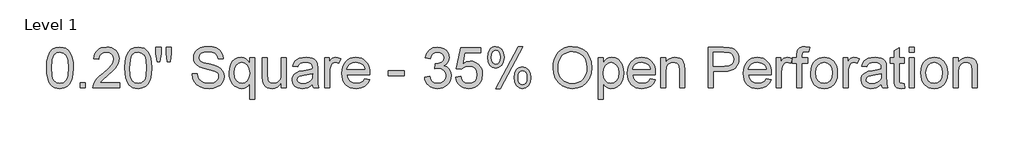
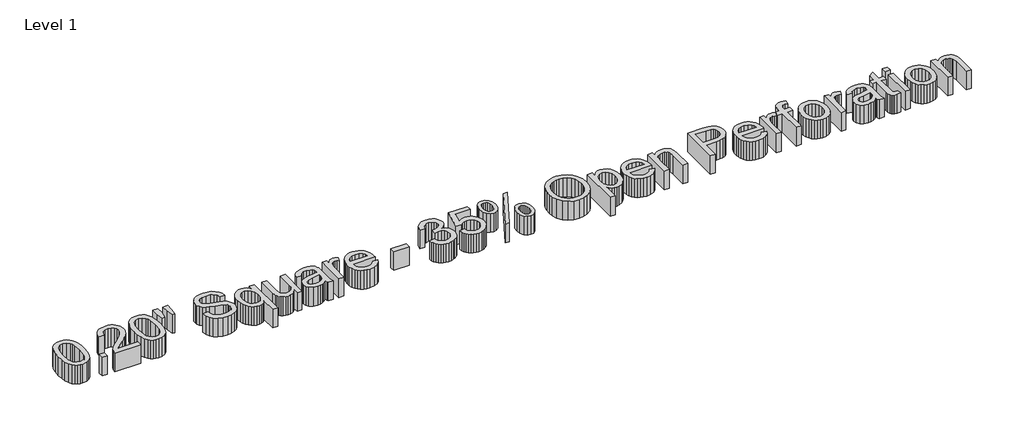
# One storey, part 2 of 3: 1 proxy.
"""IFC4 building model written with IfcOpenShell, lengths in millimetres."""

from ifc_helpers import new_model, si_unit, origin, origin_with_axes, place, context, project, spatial, polyline, outline, extrude, element, save

model = new_model("IFC4")

# Units and contexts
model_context = context("Model", 3, world=origin())
ifc_project = project(units=[si_unit("LENGTHUNIT", "METRE", prefix="MILLI")], contexts=[model_context])

# Site, building, storey
site = spatial("IfcSite", under=ifc_project)
building = spatial("IfcBuilding", under=site)
storey = spatial("IfcBuildingStorey", under=building, Name="Level 1", Elevation=0.0)

# Proxy
placement = place(None, origin())
element("IfcBuildingElementProxy", 1, Name="24\" Arial", ObjectType="24\" Arial", at=placement, inside=storey, context=model_context, shape_type="SweptSolid", body=[
    extrude(outline(polyline([(-12469.9924726, -26569.1832594), (-12467.1947829, -26520.4328197), (-12458.8017139, -26481.5532984), (-12444.8969173, -26451.9498379), (-12425.5640452, -26431.0275805), (-12400.6636776, -26418.5913387), (-12370.0563948, -26414.4459248), (-12346.596698, -26416.8997124), (-12325.5907888, -26424.2610753), (-12308.0239002, -26436.2418792), (-12294.8812649, -26452.5539901), (-12284.9545786, -26473.0579882), (-12277.0355368, -26497.6144537), (-12271.849122, -26528.7980048), (-12270.1203171, -26569.1832594), (-12272.8901228, -26617.6548596), (-12281.19954, -26656.4414344), (-12295.0206847, -26686.0727789), (-12314.3256729, -26707.0786881), (-12339.2818084, -26719.5985818), (-12370.0563948, -26723.7718797), (-12391.0251254, -26721.9594229), (-12409.6144256, -26716.5220526), (-12425.8242954, -26707.4597688), (-12439.6547347, -26694.7725714), (-12452.927495, -26671.8380223), (-12462.4080381, -26643.2616206), (-12468.096364, -26609.0433663), (-12469.9924726, -26569.1832594)]), holes=[polyline([(-12431.9215858, -26569.1089022), (-12427.4601538, -26628.9943327), (-12421.8833637, -26649.4774179), (-12414.0758576, -26663.6540829), (-12394.1481279, -26680.1892654), (-12370.0563948, -26685.7009929), (-12345.9646618, -26680.1706761), (-12326.036932, -26663.5797257), (-12318.2294259, -26649.379824), (-12312.6526359, -26628.9013862), (-12308.1912039, -26569.1089022), (-12312.5039215, -26510.571196), (-12317.8948185, -26490.1554971), (-12325.4420744, -26475.6419009), (-12345.3326256, -26458.2980839), (-12370.502538, -26452.5168115), (-12394.3340209, -26457.6102798), (-12413.481, -26472.8906845), (-12421.5487563, -26488.6915897), (-12427.3114394, -26509.9949277), (-12431.9215858, -26569.1089022)])]), origin_with_axes(), (0.0, 0.0, 1.0), 152.4),
    extrude(outline(polyline([(-12217.7728478, -26719.0130188), (-12217.7728478, -26680.9421321), (-12179.701961, -26680.9421321), (-12179.701961, -26719.0130188), (-12217.7728478, -26719.0130188)])), origin_with_axes(), (0.0, 0.0, 1.0), 152.4),
    extrude(outline(polyline([(-11922.7234754, -26680.9421321), (-11922.7234754, -26719.0130188), (-12122.5956309, -26719.0130188), (-12118.5059849, -26692.764927), (-12109.1183883, -26672.2516342), (-12095.3808954, -26652.3517884), (-12075.5089336, -26631.5224776), (-12047.7179298, -26608.2207898), (-12006.6355764, -26571.7299935), (-11981.9861644, -26544.7940976), (-11969.6614584, -26522.9330806), (-11965.553223, -26501.6669212), (-11969.4290921, -26482.6035939), (-11981.0566994, -26466.7562155), (-11998.9303115, -26456.0766625), (-12021.5441952, -26452.5168115), (-12045.2920261, -26455.9930107), (-12063.7419066, -26466.4216081), (-12075.6483533, -26482.9846745), (-12079.7658833, -26504.8642808), (-12117.8367701, -26500.10542), (-12114.5627296, -26480.4518824), (-12108.6071825, -26463.2800163), (-12099.9701289, -26448.5898219), (-12088.6515688, -26436.381299), (-12074.9117523, -26426.7845728), (-12059.0109297, -26419.9297683), (-12020.7262659, -26414.4459248), (-12000.3221853, -26415.9702474), (-11982.1627627, -26420.5432152), (-11966.2479981, -26428.1648283), (-11952.5778915, -26438.8350866), (-11941.5985861, -26451.7639449), (-11933.7562251, -26466.1613579), (-11929.0508085, -26482.0273256), (-11927.4823363, -26499.361848), (-11929.1739626, -26517.5700675), (-11934.2488415, -26535.4622689), (-11943.2553575, -26553.6611938), (-11956.7418947, -26572.7895837), (-11978.2404204, -26595.6265389), (-12011.2829015, -26624.9511599), (-12055.0792927, -26661.5720813), (-12072.255806, -26680.9421321), (-11922.7234754, -26680.9421321)])), origin_with_axes(), (0.0, 0.0, 1.0), 152.4),
    extrude(outline(polyline([(-11884.6525887, -26569.1832594), (-11881.854899, -26520.4328197), (-11873.46183, -26481.5532984), (-11859.5570334, -26451.9498379), (-11840.2241612, -26431.0275805), (-11815.3237937, -26418.5913387), (-11784.7165109, -26414.4459248), (-11761.2568141, -26416.8997124), (-11740.2509049, -26424.2610753), (-11722.6840162, -26436.2418792), (-11709.541381, -26452.5539901), (-11699.6146947, -26473.0579882), (-11691.6956528, -26497.6144537), (-11686.5092381, -26528.7980048), (-11684.7804332, -26569.1832594), (-11687.5502389, -26617.6548596), (-11695.8596561, -26656.4414344), (-11709.6808008, -26686.0727789), (-11728.985789, -26707.0786881), (-11753.9419245, -26719.5985818), (-11784.7165109, -26723.7718797), (-11805.6852415, -26721.9594229), (-11824.2745417, -26716.5220526), (-11840.4844114, -26707.4597688), (-11854.3148508, -26694.7725714), (-11867.5876111, -26671.8380223), (-11877.0681542, -26643.2616206), (-11882.75648, -26609.0433663), (-11884.6525887, -26569.1832594)]), holes=[polyline([(-11846.5817019, -26569.1089022), (-11842.1202699, -26628.9943327), (-11836.5434798, -26649.4774179), (-11828.7359737, -26663.6540829), (-11808.8082439, -26680.1892654), (-11784.7165109, -26685.7009929), (-11760.6247779, -26680.1706761), (-11740.6970481, -26663.5797257), (-11732.889542, -26649.379824), (-11727.312752, -26628.9013862), (-11722.8513199, -26569.1089022), (-11727.1640376, -26510.571196), (-11732.5549346, -26490.1554971), (-11740.1021905, -26475.6419009), (-11759.9927417, -26458.2980839), (-11785.1626541, -26452.5168115), (-11808.994137, -26457.6102798), (-11828.1411161, -26472.8906845), (-11836.2088724, -26488.6915897), (-11841.9715555, -26509.9949277), (-11846.5817019, -26569.1089022)])]), origin_with_axes(), (0.0, 0.0, 1.0), 152.4),
    extrude(outline(polyline([(-11642.1737572, -26523.8997242), (-11651.4684073, -26465.0831784), (-11651.4684073, -26414.4459248), (-11613.3975205, -26414.4459248), (-11613.3975205, -26465.0831784), (-11621.725527, -26523.8997242), (-11642.1737572, -26523.8997242)])), origin_with_axes(), (0.0, 0.0, 1.0), 152.4),
    extrude(outline(polyline([(-11566.2550553, -26523.8997242), (-11575.3266338, -26465.0831784), (-11575.3266338, -26414.4459248), (-11537.255747, -26414.4459248), (-11537.255747, -26465.0831784), (-11546.1786111, -26523.8997242), (-11566.2550553, -26523.8997242)])), origin_with_axes(), (0.0, 0.0, 1.0), 152.4),
    extrude(outline(polyline([(-11380.2133391, -26614.3180802), (-11342.1424524, -26614.3180802), (-11337.7739668, -26635.4448199), (-11329.8735142, -26652.4261456), (-11317.5488082, -26665.9033882), (-11299.9075624, -26676.5178786), (-11278.3439742, -26683.4052143), (-11254.2522411, -26685.7009929), (-11233.0418496, -26683.9628934), (-11214.4711388, -26678.7485947), (-11199.4231003, -26670.4949454), (-11188.7807259, -26659.6387941), (-11182.4510692, -26647.1746683), (-11180.3411836, -26634.0970956), (-11181.9212741, -26621.3541304), (-11186.6615457, -26610.33997), (-11196.2908032, -26600.9430788), (-11212.5378515, -26593.0519208), (-11267.9711447, -26578.5150881), (-11304.3596997, -26568.8951253), (-11327.6427982, -26559.7398949), (-11346.5945897, -26546.9318671), (-11360.0253591, -26531.4098015), (-11368.0280528, -26513.5083054), (-11370.6956174, -26493.5619863), (-11367.3960166, -26471.2641208), (-11357.4972143, -26450.4719885), (-11341.2594606, -26432.8493319), (-11318.9430057, -26420.0598934), (-11292.1558242, -26412.2802713), (-11262.5058904, -26409.6870639), (-11230.3835797, -26412.4011017), (-11202.2765578, -26420.5432152), (-11179.188647, -26433.9461006), (-11162.1236695, -26452.4424543), (-11151.3232861, -26474.8797396), (-11147.0291577, -26500.10542), (-11185.1000445, -26500.10542), (-11192.0896213, -26477.3892952), (-11206.6636327, -26460.9935324), (-11229.4355254, -26451.0668461), (-11261.0187464, -26447.7579507), (-11293.3455394, -26451.0296675), (-11315.5225745, -26460.844818), (-11328.3491916, -26475.2887042), (-11332.6247307, -26492.4466283), (-11329.5946747, -26507.0764075), (-11320.504507, -26518.8434345), (-11299.0152759, -26529.3649784), (-11258.3418872, -26540.1095939), (-11216.3672474, -26550.3151197), (-11190.9742633, -26559.2193945), (-11169.2712554, -26573.0312446), (-11154.1302704, -26590.0776328), (-11145.2352902, -26610.1726663), (-11142.2702969, -26633.130452), (-11145.6814335, -26656.5994435), (-11155.9148432, -26678.6742375), (-11172.5522669, -26697.6725022), (-11195.1754452, -26711.9119062), (-11222.380886, -26720.8068863), (-11252.7650971, -26723.7718797), (-11290.0645279, -26720.57452), (-11320.7647572, -26710.9824412), (-11345.2189815, -26694.9584644), (-11363.7803978, -26672.4654112), (-11375.6961392, -26645.0647827), (-11380.2133391, -26614.3180802)])), origin_with_axes(), (0.0, 0.0, 1.0), 152.4),
    extrude(outline(polyline([(-10951.9158631, -26804.672514), (-10951.9158631, -26688.5265665), (-10962.2701033, -26702.4127738), (-10976.0819533, -26713.7336576), (-10992.1059301, -26721.2623242), (-11009.0965504, -26723.7718797), (-11027.8670963, -26721.7897955), (-11045.2899179, -26715.8435432), (-11061.3650152, -26705.9331225), (-11076.0923882, -26692.0585336), (-11088.3892103, -26674.7309822), (-11097.1726546, -26654.461674), (-11102.4427212, -26631.250609), (-11104.1994101, -26605.0977874), (-11101.4110151, -26573.2171376), (-11093.04583, -26544.7940976), (-11079.3826944, -26521.3344008), (-11060.7004477, -26504.3437804), (-11038.486234, -26494.0267188), (-11014.2271973, -26490.5876983), (-10995.4705934, -26493.2552629), (-10978.8331697, -26501.2579566), (-10964.3149263, -26514.5957795), (-10951.9158631, -26533.2687315), (-10951.9158631, -26495.3465591), (-10913.8449763, -26495.3465591), (-10913.8449763, -26804.672514), (-10951.9158631, -26804.672514)]), holes=[polyline([(-11066.1285234, -26607.179789), (-11061.8436897, -26641.5328157), (-11048.9891886, -26666.0706919), (-11030.1489329, -26680.7934177), (-11007.9068352, -26685.7009929), (-10986.5942026, -26681.0350786), (-10968.4603402, -26667.0373355), (-10956.0519824, -26643.5032815), (-10951.9158631, -26610.2284342), (-10956.275054, -26574.6578083), (-10969.3526266, -26549.1439938), (-10988.3044182, -26533.7799372), (-11010.2862656, -26528.658585), (-11031.8591485, -26533.4267405), (-11049.881475, -26547.731207), (-11062.0667613, -26572.1296635), (-11066.1285234, -26607.179789)])]), origin_with_axes(), (0.0, 0.0, 1.0), 152.4),
    extrude(outline(polyline([(-10713.9728208, -26719.0130188), (-10713.9728208, -26680.5703461), (-10727.7474923, -26699.471017), (-10743.7900583, -26712.9714963), (-10762.100519, -26721.0717838), (-10782.6788743, -26723.7718797), (-10801.2217012, -26721.8757711), (-10818.4818664, -26716.1874452), (-10832.9629313, -26707.6363671), (-10843.1684571, -26697.1520018), (-10850.0372035, -26684.4183312), (-10854.5079302, -26669.1193372), (-10856.7386462, -26633.7253096), (-10856.7386462, -26495.3465591), (-10818.6677594, -26495.3465591), (-10818.6677594, -26615.8052243), (-10816.3626862, -26654.619683), (-10810.8137801, -26667.5671306), (-10801.3053531, -26677.410165), (-10788.4694413, -26683.628286), (-10772.938081, -26685.7009929), (-10756.5144343, -26683.5818127), (-10741.1503777, -26677.224272), (-10728.4817696, -26667.2139339), (-10720.1444685, -26654.1363612), (-10715.5157328, -26636.2255705), (-10713.9728208, -26611.7155782), (-10713.9728208, -26495.3465591), (-10675.9019341, -26495.3465591), (-10675.9019341, -26719.0130188), (-10713.9728208, -26719.0130188)])), origin_with_axes(), (0.0, 0.0, 1.0), 152.4),
    extrude(outline(polyline([(-10480.7886394, -26690.4598538), (-10498.9782697, -26706.0562766), (-10517.7069896, -26716.2618024), (-10537.4023531, -26721.8943604), (-10558.4919142, -26723.7718797), (-10590.3075014, -26719.2546797), (-10613.7764929, -26705.7030799), (-10628.2482631, -26685.1247246), (-10633.0721865, -26659.5272583), (-10631.2504351, -26643.7449424), (-10625.7851808, -26629.412592), (-10617.3549332, -26617.1436539), (-10606.6382016, -26607.551575), (-10579.9811452, -26595.0595653), (-10547.0409053, -26589.3340608), (-10508.1149107, -26583.3111276), (-10481.011711, -26576.2471935), (-10480.7886394, -26567.7704726), (-10483.4097308, -26550.7798522), (-10491.2730047, -26539.6634507), (-10508.8584827, -26531.4098015), (-10533.3591803, -26528.658585), (-10556.0381266, -26530.4896311), (-10571.8762103, -26535.9827693), (-10582.6765937, -26546.1418219), (-10590.2424389, -26561.970611), (-10628.3133256, -26557.2117501), (-10621.7048294, -26536.3917339), (-10611.8432057, -26520.0331498), (-10597.808284, -26507.5225507), (-10578.6798942, -26498.24649), (-10555.2852599, -26492.5023962), (-10528.4516051, -26490.5876983), (-10502.714719, -26492.2793246), (-10482.3129621, -26497.3542035), (-10466.9303162, -26504.9851113), (-10456.2507632, -26514.3448239), (-10449.1682398, -26525.9166633), (-10444.5766827, -26540.1839511), (-10442.7177527, -26573.4959771), (-10442.7177527, -26620.8615139), (-10440.7844655, -26687.0022439), (-10433.200031, -26719.0130188), (-10471.2709178, -26719.0130188), (-10477.3682082, -26705.7774371), (-10480.7886394, -26690.4598538)]), holes=[polyline([(-10480.7886394, -26614.3180802), (-10542.2076872, -26625.9921608), (-10574.9620341, -26632.1638084), (-10589.7962957, -26642.2020305), (-10595.0012997, -26656.850399), (-10592.1664314, -26668.1712829), (-10583.6618266, -26677.4473436), (-10569.6733782, -26683.6375806), (-10550.3869793, -26685.7009929), (-10529.9387491, -26683.4238036), (-10511.8699493, -26676.5922358), (-10497.2215808, -26666.5261298), (-10487.0346443, -26654.5453258), (-10482.5174444, -26642.2020305), (-10481.011711, -26625.0998743), (-10480.7886394, -26614.3180802)])]), origin_with_axes(), (0.0, 0.0, 1.0), 152.4),
    extrude(outline(polyline([(-10390.3702834, -26719.0130188), (-10390.3702834, -26495.3465591), (-10357.0582575, -26495.3465591), (-10357.0582575, -26528.4355134), (-10344.7521408, -26509.2513557), (-10333.4126677, -26497.9490612), (-10322.0360159, -26492.428039), (-10309.6183634, -26490.5876983), (-10290.6572773, -26493.5248077), (-10271.3987623, -26502.336136), (-10284.1138436, -26536.4660911), (-10297.4981397, -26530.6104616), (-10310.8824358, -26528.658585), (-10322.2497929, -26530.5361044), (-10332.4088454, -26536.1686623), (-10340.6160215, -26545.128705), (-10346.127749, -26556.9886785), (-10350.7564847, -26578.2548379), (-10352.2993966, -26601.4542845), (-10352.2993966, -26719.0130188), (-10390.3702834, -26719.0130188)])), origin_with_axes(), (0.0, 0.0, 1.0), 152.4),
    extrude(outline(polyline([(-10091.0081934, -26652.388967), (-10053.6808786, -26657.1478279), (-10067.1302373, -26685.273439), (-10088.5915843, -26706.2979375), (-10117.581598, -26719.4033941), (-10153.6169564, -26723.7718797), (-10177.2393096, -26721.8873894), (-10198.2870447, -26716.2339185), (-10216.7601617, -26706.8114669), (-10232.6586607, -26693.6200348), (-10245.4434519, -26677.0267607), (-10254.5754456, -26657.3987834), (-10260.0546418, -26634.7361028), (-10261.8810406, -26609.038719), (-10260.0360525, -26582.4699617), (-10254.5010884, -26559.0520908), (-10245.2761482, -26538.7851063), (-10232.3612319, -26521.6690082), (-10216.5045589, -26508.0709351), (-10198.4543484, -26498.3580258), (-10178.2106005, -26492.5302802), (-10155.7733152, -26490.5876983), (-10134.0586889, -26492.5256328), (-10114.4214169, -26498.3394365), (-10096.8614993, -26508.0291092), (-10081.3789359, -26521.594651), (-10068.7405354, -26538.6735705), (-10059.7131065, -26558.9033764), (-10054.2966492, -26582.2840687), (-10052.4911634, -26608.8156474), (-10052.714235, -26619.0769411), (-10223.8101538, -26619.0769411), (-10217.2202469, -26647.5743383), (-10201.9119582, -26668.5244796), (-10179.818575, -26681.4068646), (-10152.8733844, -26685.7009929), (-10132.6110472, -26683.7119378), (-10115.5460696, -26677.7447724), (-10101.6784517, -26667.4277108), (-10091.0081934, -26652.388967)]), holes=[polyline([(-10223.8101538, -26581.0060543), (-10090.5620502, -26581.0060543), (-10095.7112863, -26560.8924315), (-10105.8052763, -26546.5043132), (-10128.0009007, -26533.1200171), (-10155.9220296, -26528.658585), (-10181.5845585, -26532.218436), (-10202.8042446, -26542.897989), (-10217.5548543, -26559.5447073), (-10223.8101538, -26581.0060543)])]), origin_with_axes(), (0.0, 0.0, 1.0), 152.4),
    extrude(outline(polyline([(-9914.4841989, -26628.5946628), (-9914.4841989, -26590.523776), (-9795.5126778, -26590.523776), (-9795.5126778, -26628.5946628), (-9914.4841989, -26628.5946628)])), origin_with_axes(), (0.0, 0.0, 1.0), 152.4),
    extrude(outline(polyline([(-9643.2291308, -26638.1123845), (-9605.158244, -26633.3535236), (-9596.6350499, -26657.277953), (-9584.1523348, -26673.4320548), (-9567.0966519, -26682.6337584), (-9544.8545542, -26685.7009929), (-9518.7551768, -26681.4812218), (-9498.6043754, -26668.8219084), (-9485.7219904, -26649.9351794), (-9481.427862, -26627.0331616), (-9485.6848118, -26605.292975), (-9498.455661, -26587.6610238), (-9517.7885332, -26575.9776486), (-9541.7315518, -26572.0831903), (-9568.4257869, -26576.2471935), (-9564.1874264, -26538.1763067), (-9558.090136, -26538.6224499), (-9535.2810646, -26535.8898228), (-9514.8886023, -26527.6919414), (-9500.500484, -26513.8243235), (-9495.7044446, -26494.0824867), (-9499.1806437, -26477.6402507), (-9509.6092411, -26464.3024278), (-9525.521682, -26455.4632156), (-9545.4494118, -26452.5168115), (-9565.4143202, -26455.4910996), (-9581.7357258, -26464.4139636), (-9593.6514672, -26479.2854038), (-9600.3993832, -26500.10542), (-9638.4702699, -26495.3465591), (-9627.2609219, -26461.1608361), (-9607.3146028, -26435.637727), (-9580.0255102, -26419.7438753), (-9546.7878414, -26414.4459248), (-9522.8541175, -26417.0577214), (-9500.87227, -26424.8931115), (-9482.3387377, -26437.2549961), (-9468.7499593, -26453.4462765), (-9460.4126582, -26472.1006393), (-9457.6335578, -26491.8517707), (-9460.2732384, -26510.2551779), (-9468.1922803, -26526.9483694), (-9481.2791476, -26541.1691841), (-9499.4223046, -26552.1554605), (-9475.5908218, -26561.784718), (-9457.9309866, -26578.1804807), (-9447.0004781, -26600.4504623), (-9443.3569753, -26627.7023764), (-9445.1787267, -26647.0166593), (-9450.6439809, -26664.8066195), (-9459.752738, -26681.0722572), (-9472.5049979, -26695.8135722), (-9488.0410056, -26708.0453317), (-9505.5010058, -26716.7823028), (-9524.8849985, -26722.0244855), (-9546.1929838, -26723.7718797), (-9565.4514988, -26722.2800883), (-9582.9997982, -26717.8047143), (-9598.8378819, -26710.3457576), (-9612.9657501, -26699.9032183), (-9624.8117816, -26687.0905431), (-9633.8043556, -26672.5211791), (-9639.9434719, -26656.1951262), (-9643.2291308, -26638.1123845)])), origin_with_axes(), (0.0, 0.0, 1.0), 152.4),
    extrude(outline(polyline([(-9410.0449494, -26638.1123845), (-9371.9740626, -26633.3535236), (-9364.9844857, -26656.2090682), (-9352.7899048, -26672.576947), (-9335.4460878, -26682.4199814), (-9313.0088024, -26685.7009929), (-9285.7197098, -26681.1373197), (-9265.2714796, -26667.4463001), (-9252.5006304, -26646.2080247), (-9248.2436806, -26619.0025839), (-9252.2310855, -26593.3865283), (-9264.1933002, -26573.7934059), (-9284.2232711, -26561.357164), (-9312.4139448, -26557.2117501), (-9330.8824146, -26558.8661978), (-9345.8375066, -26563.829541), (-9367.2152018, -26581.0060543), (-9405.2860885, -26576.2471935), (-9371.9740626, -26419.2047856), (-9224.4493764, -26419.2047856), (-9224.4493764, -26457.2756724), (-9341.1901815, -26457.2756724), (-9357.4744085, -26541.1505948), (-9330.2782623, -26524.6432962), (-9301.7808651, -26519.1408634), (-9283.2403619, -26520.8464316), (-9266.2102393, -26525.9631365), (-9250.6904973, -26534.490978), (-9236.6811359, -26546.429956), (-9225.0837363, -26561.0504406), (-9216.7998794, -26577.6228017), (-9211.8295653, -26596.1470393), (-9210.1727939, -26616.6231535), (-9216.1399592, -26654.6940402), (-9223.5989159, -26671.6660713), (-9234.0414553, -26687.2624941), (-9249.8609497, -26703.2353503), (-9268.3201248, -26714.6445333), (-9289.4189805, -26721.4900431), (-9313.1575168, -26723.7718797), (-9332.8040835, -26722.3056486), (-9350.5498941, -26717.9069555), (-9366.3949489, -26710.5758002), (-9380.3392477, -26700.3121829), (-9391.9412947, -26687.6273092), (-9400.7595939, -26673.0323849), (-9406.7941455, -26656.52741), (-9410.0449494, -26638.1123845)])), origin_with_axes(), (0.0, 0.0, 1.0), 152.4),
    extrude(outline(polyline([(-8972.2297516, -26640.7148865), (-8968.3352932, -26610.2377289), (-8956.6519181, -26584.8354502), (-8947.9776859, -26574.832083), (-8937.5328229, -26567.6868208), (-8911.3312043, -26561.970611), (-8886.5144885, -26567.1105525), (-8866.3450978, -26582.5303769), (-8852.9608017, -26607.9140663), (-8848.4993697, -26642.9456025), (-8853.007275, -26677.3543971), (-8866.5309908, -26702.8031491), (-8886.7096762, -26718.529697), (-8911.1824899, -26723.7718797), (-8935.1719817, -26718.5761703), (-8954.7929881, -26702.9890421), (-8967.8705607, -26677.0290844), (-8972.2297516, -26640.7148865)]), holes=[polyline([(-8910.3645607, -26590.523776), (-8923.5443745, -26593.4051176), (-8934.2332221, -26602.0491421), (-8941.3157454, -26618.389137), (-8943.6765866, -26644.3583893), (-8941.2878615, -26668.0969257), (-8934.1216863, -26683.6933485), (-8923.4607226, -26692.3373731), (-8910.5876323, -26695.2187146), (-8897.2405147, -26692.3373731), (-8886.4958992, -26683.6933485), (-8879.4133759, -26667.4091215), (-8877.0525347, -26641.6071729), (-8879.4412598, -26617.5619131), (-8886.607435, -26601.9376063), (-8897.3241666, -26593.3772336), (-8910.3645607, -26590.523776)])]), origin_with_axes(), (0.0, 0.0, 1.0), 152.4),
    extrude(outline(polyline([(-9172.1019071, -26488.4313395), (-9168.2074487, -26458.0936016), (-9156.5240736, -26432.6634389), (-9147.859136, -26422.6112749), (-9137.4421569, -26415.4311577), (-9125.2731363, -26411.1230874), (-9111.3520741, -26409.6870639), (-9086.4238226, -26414.8270054), (-9066.2172533, -26430.2468299), (-9052.8329572, -26455.6305193), (-9048.3715252, -26490.6620555), (-9052.8887251, -26525.0708501), (-9066.4403249, -26550.519602), (-9086.5911263, -26566.24615), (-9110.9059309, -26571.4883326), (-9134.9604854, -26566.3205072), (-9154.627965, -26550.8170309), (-9167.7334216, -26524.8849571), (-9172.1019071, -26488.4313395)]), holes=[polyline([(-9110.3110733, -26438.240229), (-9123.388646, -26441.1215705), (-9134.068199, -26449.7655951), (-9141.1786063, -26466.10559), (-9143.548742, -26492.0748423), (-9141.1507223, -26515.9527984), (-9133.9566632, -26531.5213373), (-9123.2492263, -26540.08171), (-9110.3110733, -26542.9351676), (-9097.1219649, -26540.053826), (-9086.4052333, -26531.4098015), (-9079.294826, -26515.1255745), (-9076.9246902, -26489.3236259), (-9079.3227099, -26465.2783661), (-9086.5167691, -26449.6540593), (-9097.2613846, -26441.0936866), (-9110.3110733, -26438.240229)])]), origin_with_axes(), (0.0, 0.0, 1.0), 152.4),
    extrude(outline(polyline([(-9110.1623589, -26723.7718797), (-8941.3715133, -26409.6870639), (-8909.6209886, -26409.6870639), (-9078.4118342, -26723.7718797), (-9110.1623589, -26723.7718797)])), origin_with_axes(), (0.0, 0.0, 1.0), 152.4),
    extrude(outline(polyline([(-8681.9392401, -26570.7447606), (-8679.4018006, -26535.020773), (-8671.7894822, -26503.3957261), (-8659.1022848, -26475.8696199), (-8641.3402085, -26452.4424543), (-8619.5674907, -26433.736971), (-8594.8483688, -26420.3759115), (-8567.1828428, -26412.3592758), (-8536.5709127, -26409.6870639), (-8496.6225067, -26414.706175), (-8460.8009252, -26429.7635081), (-8431.0580449, -26453.7994732), (-8409.3457423, -26485.7544802), (-8396.072982, -26524.0856172), (-8391.6487286, -26567.2499722), (-8396.3053483, -26610.9905955), (-8410.2752073, -26649.8608222), (-8432.7868499, -26681.8715971), (-8463.0688198, -26705.0338651), (-8498.5836778, -26719.087376), (-8536.7939843, -26723.7718797), (-8577.3558373, -26718.5947596), (-8613.3819011, -26703.0633993), (-8643.0504241, -26678.581291), (-8664.5396551, -26646.5519268), (-8677.5893439, -26609.6986392), (-8681.9392401, -26570.7447606)]), holes=[polyline([(-8643.8683533, -26571.1165466), (-8641.9652737, -26596.356169), (-8636.2560349, -26618.760923), (-8626.7406369, -26638.3308087), (-8613.4190797, -26655.0658262), (-8597.2254755, -26668.4687117), (-8579.0939369, -26678.0422012), (-8559.0244637, -26683.786295), (-8537.0170559, -26685.7009929), (-8514.6332149, -26683.7677057), (-8494.3267281, -26677.967844), (-8476.0975956, -26668.301408), (-8459.9458174, -26654.7683974), (-8446.721854, -26637.6801832), (-8437.2761658, -26617.3481362), (-8431.608753, -26593.7722562), (-8429.7196153, -26566.9525434), (-8432.9541536, -26533.2501422), (-8442.6577682, -26504.1207088), (-8458.5795038, -26480.2985206), (-8480.4684048, -26462.517855), (-8506.8745057, -26451.4479268), (-8536.3478411, -26447.7579507), (-8557.5907639, -26449.5355525), (-8577.3000694, -26454.868358), (-8595.4757577, -26463.7563671), (-8612.1178286, -26476.1995799), (-8626.0086832, -26492.7975013), (-8635.9307222, -26514.1496363), (-8641.8839455, -26540.2559847), (-8643.8683533, -26571.1165466)])]), origin_with_axes(), (0.0, 0.0, 1.0), 152.4),
    extrude(outline(polyline([(-8344.0601201, -26804.672514), (-8344.0601201, -26495.3465591), (-8305.9892334, -26495.3465591), (-8305.9892334, -26532.6738739), (-8293.5715808, -26514.2611721), (-8279.6667843, -26501.1092422), (-8263.4569146, -26493.2180843), (-8244.1240424, -26490.5876983), (-8218.3778616, -26494.2683797), (-8195.8662191, -26505.310424), (-8177.5371692, -26523.0446164), (-8164.338766, -26546.801742), (-8156.3639563, -26574.852996), (-8153.7056863, -26605.4695734), (-8156.7078583, -26638.0287326), (-8165.7143742, -26667.1488713), (-8180.4371, -26691.3521402), (-8200.5879014, -26709.1606897), (-8224.0568928, -26720.1190822), (-8248.7341888, -26723.7718797), (-8266.2360149, -26721.3273867), (-8281.8603217, -26713.9939078), (-8295.2353232, -26702.9239795), (-8305.9892334, -26689.2701386), (-8305.9892334, -26804.672514), (-8344.0601201, -26804.672514)]), holes=[polyline([(-8305.9892334, -26608.9643618), (-8301.8717034, -26643.0943169), (-8289.5191134, -26666.9629783), (-8271.2923046, -26681.0164893), (-8249.552118, -26685.7009929), (-8227.4587348, -26680.8491856), (-8208.7671934, -26666.2937635), (-8196.0242282, -26641.551405), (-8191.7765731, -26606.1387882), (-8195.921987, -26572.1947261), (-8208.3582288, -26547.9914572), (-8226.5571537, -26533.4918031), (-8247.9906168, -26528.658585), (-8269.5077318, -26533.7985265), (-8288.4037554, -26549.218351), (-8301.5928639, -26574.4347367), (-8305.9892334, -26608.9643618)])]), origin_with_axes(), (0.0, 0.0, 1.0), 152.4),
    extrude(outline(polyline([(-7954.279674, -26652.388967), (-7916.9523593, -26657.1478279), (-7930.401718, -26685.273439), (-7951.863065, -26706.2979375), (-7980.8530786, -26719.4033941), (-8016.888437, -26723.7718797), (-8040.5107902, -26721.8873894), (-8061.5585254, -26716.2339185), (-8080.0316424, -26706.8114669), (-8095.9301414, -26693.6200348), (-8108.7149326, -26677.0267607), (-8117.8469263, -26657.3987834), (-8123.3261225, -26634.7361028), (-8125.1525213, -26609.038719), (-8123.3075332, -26582.4699617), (-8117.7725691, -26559.0520908), (-8108.5476289, -26538.7851063), (-8095.6327126, -26521.6690082), (-8079.7760395, -26508.0709351), (-8061.7258291, -26498.3580258), (-8041.4820812, -26492.5302802), (-8019.0447959, -26490.5876983), (-7997.3301696, -26492.5256328), (-7977.6928976, -26498.3394365), (-7960.1329799, -26508.0291092), (-7944.6504166, -26521.594651), (-7932.0120161, -26538.6735705), (-7922.9845872, -26558.9033764), (-7917.5681299, -26582.2840687), (-7915.7626441, -26608.8156474), (-7915.9857157, -26619.0769411), (-8087.0816345, -26619.0769411), (-8080.4917276, -26647.5743383), (-8065.1834389, -26668.5244796), (-8043.0900556, -26681.4068646), (-8016.144865, -26685.7009929), (-7995.8825278, -26683.7119378), (-7978.8175503, -26677.7447724), (-7964.9499323, -26667.4277108), (-7954.279674, -26652.388967)]), holes=[polyline([(-8087.0816345, -26581.0060543), (-7953.8335308, -26581.0060543), (-7958.982767, -26560.8924315), (-7969.076757, -26546.5043132), (-7991.2723814, -26533.1200171), (-8019.1935103, -26528.658585), (-8044.8560392, -26532.218436), (-8066.0757253, -26542.897989), (-8080.826335, -26559.5447073), (-8087.0816345, -26581.0060543)])]), origin_with_axes(), (0.0, 0.0, 1.0), 152.4),
    extrude(outline(polyline([(-7877.6917573, -26719.0130188), (-7877.6917573, -26495.3465591), (-7839.6208706, -26495.3465591), (-7839.6208706, -26526.5765834), (-7826.3945835, -26510.8314462), (-7810.5100265, -26499.5849196), (-7791.9671996, -26492.8370036), (-7770.7661027, -26490.5876983), (-7752.0002042, -26492.400155), (-7734.8143962, -26497.8375254), (-7720.4820457, -26506.2212997), (-7710.27652, -26516.8729687), (-7698.8626896, -26544.8684548), (-7696.8550452, -26581.6752691), (-7696.8550452, -26719.0130188), (-7734.925932, -26719.0130188), (-7734.925932, -26586.805916), (-7739.3130068, -26553.1221041), (-7745.3824133, -26543.0931766), (-7754.8164832, -26535.3135545), (-7766.9088229, -26530.3223274), (-7780.9530392, -26528.658585), (-7803.2509048, -26532.3950344), (-7822.2584642, -26543.6043824), (-7829.854517, -26552.7549654), (-7835.280269, -26565.2609171), (-7839.6208706, -26600.3389265), (-7839.6208706, -26719.0130188), (-7877.6917573, -26719.0130188)])), origin_with_axes(), (0.0, 0.0, 1.0), 152.4),
    extrude(outline(polyline([(-7520.777194, -26719.0130188), (-7520.777194, -26414.4459248), (-7407.9029633, -26414.4459248), (-7362.3963565, -26417.3458556), (-7342.1061353, -26422.7646366), (-7325.4036491, -26431.5852595), (-7311.9542904, -26444.2073943), (-7301.4234519, -26461.030711), (-7294.619768, -26480.8747889), (-7292.3518734, -26502.5592076), (-7293.883167, -26521.2553962), (-7298.4770478, -26538.4551462), (-7306.1335158, -26554.1584576), (-7316.852571, -26568.3653302), (-7331.5683258, -26580.1416519), (-7351.2148924, -26588.5533102), (-7375.7922709, -26593.6003052), (-7405.3004613, -26595.2826369), (-7482.7063072, -26595.2826369), (-7482.7063072, -26719.0130188), (-7520.777194, -26719.0130188)]), holes=[polyline([(-7482.7063072, -26557.2117501), (-7403.0697453, -26557.2117501), (-7369.3115761, -26553.7169617), (-7347.0044159, -26543.2325964), (-7334.5681741, -26526.4092797), (-7330.4227602, -26503.8976372), (-7332.8672531, -26486.795481), (-7340.2007321, -26472.3701841), (-7351.5123212, -26461.5140328), (-7365.8911449, -26455.1193135), (-7403.9620317, -26452.5168115), (-7482.7063072, -26452.5168115), (-7482.7063072, -26557.2117501)])]), origin_with_axes(), (0.0, 0.0, 1.0), 152.4),
    extrude(outline(polyline([(-7088.1670003, -26652.388967), (-7050.8396855, -26657.1478279), (-7064.2890442, -26685.273439), (-7085.7503913, -26706.2979375), (-7114.7404049, -26719.4033941), (-7150.7757633, -26723.7718797), (-7174.3981165, -26721.8873894), (-7195.4458516, -26716.2339185), (-7213.9189687, -26706.8114669), (-7229.8174676, -26693.6200348), (-7242.6022588, -26677.0267607), (-7251.7342525, -26657.3987834), (-7257.2134488, -26634.7361028), (-7259.0398475, -26609.038719), (-7257.1948595, -26582.4699617), (-7251.6598953, -26559.0520908), (-7242.4349551, -26538.7851063), (-7229.5200388, -26521.6690082), (-7213.6633658, -26508.0709351), (-7195.6131553, -26498.3580258), (-7175.3694074, -26492.5302802), (-7152.9321221, -26490.5876983), (-7131.2174958, -26492.5256328), (-7111.5802239, -26498.3394365), (-7094.0203062, -26508.0291092), (-7078.5377428, -26521.594651), (-7065.8993423, -26538.6735705), (-7056.8719134, -26558.9033764), (-7051.4554561, -26582.2840687), (-7049.6499703, -26608.8156474), (-7049.8730419, -26619.0769411), (-7220.9689607, -26619.0769411), (-7214.3790538, -26647.5743383), (-7199.0707651, -26668.5244796), (-7176.9773819, -26681.4068646), (-7150.0321913, -26685.7009929), (-7129.7698541, -26683.7119378), (-7112.7048765, -26677.7447724), (-7098.8372586, -26667.4277108), (-7088.1670003, -26652.388967)]), holes=[polyline([(-7220.9689607, -26581.0060543), (-7087.7208571, -26581.0060543), (-7092.8700932, -26560.8924315), (-7102.9640832, -26546.5043132), (-7125.1597076, -26533.1200171), (-7153.0808365, -26528.658585), (-7178.7433654, -26532.218436), (-7199.9630515, -26542.897989), (-7214.7136612, -26559.5447073), (-7220.9689607, -26581.0060543)])]), origin_with_axes(), (0.0, 0.0, 1.0), 152.4),
    extrude(outline(polyline([(-7011.5790836, -26719.0130188), (-7011.5790836, -26495.3465591), (-6978.2670577, -26495.3465591), (-6978.2670577, -26528.4355134), (-6965.9609409, -26509.2513557), (-6954.6214678, -26497.9490612), (-6943.2448161, -26492.428039), (-6930.8271636, -26490.5876983), (-6911.8660774, -26493.5248077), (-6892.6075624, -26502.336136), (-6905.3226438, -26536.4660911), (-6918.7069399, -26530.6104616), (-6932.091236, -26528.658585), (-6943.4585931, -26530.5361044), (-6953.6176456, -26536.1686623), (-6961.8248217, -26545.128705), (-6967.3365492, -26556.9886785), (-6971.9652849, -26578.2548379), (-6973.5081968, -26601.4542845), (-6973.5081968, -26719.0130188), (-7011.5790836, -26719.0130188)])), origin_with_axes(), (0.0, 0.0, 1.0), 152.4),
    extrude(outline(polyline([(-6859.2955365, -26719.0130188), (-6859.2955365, -26533.4174459), (-6892.6075624, -26533.4174459), (-6892.6075624, -26495.3465591), (-6859.2955365, -26495.3465591), (-6859.2955365, -26472.8163273), (-6855.2802477, -26441.0658026), (-6847.621456, -26428.4064892), (-6835.7986611, -26418.3868564), (-6819.254184, -26411.862012), (-6797.4303456, -26409.6870639), (-6762.7055328, -26413.8510672), (-6768.2823229, -26449.5425235), (-6790.2176971, -26447.7579507), (-6804.6894673, -26449.3380412), (-6814.1978943, -26454.0783127), (-6819.4679609, -26463.1313019), (-6821.2246498, -26477.6495454), (-6821.2246498, -26495.3465591), (-6778.3949022, -26495.3465591), (-6778.3949022, -26533.4174459), (-6821.2246498, -26533.4174459), (-6821.2246498, -26719.0130188), (-6859.2955365, -26719.0130188)])), origin_with_axes(), (0.0, 0.0, 1.0), 152.4),
    extrude(outline(polyline([(-6754.600598, -26607.179789), (-6752.541833, -26578.213012), (-6746.365538, -26553.2522292), (-6736.071713, -26532.2974406), (-6721.660358, -26515.3486461), (-6707.1514093, -26504.5157314), (-6691.1367272, -26496.7779352), (-6673.6163117, -26492.1352575), (-6654.590163, -26490.5876983), (-6633.5865775, -26492.4721886), (-6614.5952837, -26498.1256595), (-6597.6162816, -26507.548111), (-6582.6495713, -26520.7395432), (-6570.4340775, -26537.2538127), (-6561.7087247, -26556.6447765), (-6556.473513, -26578.9124344), (-6554.7284425, -26604.0567866), (-6557.8142663, -26642.5180486), (-6567.0717378, -26671.7961964), (-6582.2313121, -26693.7222759), (-6603.0234443, -26710.1273334), (-6627.7193296, -26720.3607431), (-6654.590163, -26723.7718797), (-6675.900472, -26721.8943604), (-6695.0683641, -26716.2618024), (-6712.0938394, -26706.8742058), (-6726.9768979, -26693.7315706), (-6739.0622667, -26677.0569683), (-6747.6946729, -26657.0734707), (-6752.8741167, -26633.7810775), (-6754.600598, -26607.179789)]), holes=[polyline([(-6716.5297112, -26607.1054318), (-6712.1240471, -26641.5606997), (-6698.9070546, -26666.1078705), (-6679.0165034, -26680.8027123), (-6654.590163, -26685.7009929), (-6630.2753584, -26680.7748284), (-6610.4219858, -26665.9963347), (-6597.2049934, -26641.1238511), (-6592.7993292, -26605.9157166), (-6597.2328773, -26572.4642709), (-6610.5335216, -26548.2517074), (-6630.4147781, -26533.5568656), (-6654.590163, -26528.658585), (-6679.0165034, -26533.5382763), (-6698.9070546, -26548.1773502), (-6712.1240471, -26572.6687532), (-6716.5297112, -26607.1054318)])]), origin_with_axes(), (0.0, 0.0, 1.0), 152.4),
    extrude(outline(polyline([(-6511.8986949, -26719.0130188), (-6511.8986949, -26495.3465591), (-6478.586669, -26495.3465591), (-6478.586669, -26528.4355134), (-6466.2805522, -26509.2513557), (-6454.9410791, -26497.9490612), (-6443.5644274, -26492.428039), (-6431.1467749, -26490.5876983), (-6412.1856887, -26493.5248077), (-6392.9271737, -26502.336136), (-6405.6422551, -26536.4660911), (-6419.0265512, -26530.6104616), (-6432.4108473, -26528.658585), (-6443.7782044, -26530.5361044), (-6453.9372569, -26536.1686623), (-6462.1444329, -26545.128705), (-6467.6561604, -26556.9886785), (-6472.2848962, -26578.2548379), (-6473.8278081, -26601.4542845), (-6473.8278081, -26719.0130188), (-6511.8986949, -26719.0130188)])), origin_with_axes(), (0.0, 0.0, 1.0), 152.4),
    extrude(outline(polyline([(-6226.3670442, -26690.4598538), (-6244.5566744, -26706.0562766), (-6263.2853943, -26716.2618024), (-6282.9807579, -26721.8943604), (-6304.0703189, -26723.7718797), (-6335.8859062, -26719.2546797), (-6359.3548976, -26705.7030799), (-6373.8266678, -26685.1247246), (-6378.6505912, -26659.5272583), (-6376.8288398, -26643.7449424), (-6371.3635855, -26629.412592), (-6362.9333379, -26617.1436539), (-6352.2166064, -26607.551575), (-6325.5595499, -26595.0595653), (-6292.61931, -26589.3340608), (-6253.6933154, -26583.3111276), (-6226.5901158, -26576.2471935), (-6226.3670442, -26567.7704726), (-6228.9881355, -26550.7798522), (-6236.8514095, -26539.6634507), (-6254.4368874, -26531.4098015), (-6278.9375851, -26528.658585), (-6301.6165313, -26530.4896311), (-6317.454615, -26535.9827693), (-6328.2549984, -26546.1418219), (-6335.8208436, -26561.970611), (-6373.8917304, -26557.2117501), (-6367.2832342, -26536.3917339), (-6357.4216104, -26520.0331498), (-6343.3866888, -26507.5225507), (-6324.2582989, -26498.24649), (-6300.8636646, -26492.5023962), (-6274.0300098, -26490.5876983), (-6248.2931237, -26492.2793246), (-6227.8913668, -26497.3542035), (-6212.5087209, -26504.9851113), (-6201.8291679, -26514.3448239), (-6194.7466446, -26525.9166633), (-6190.1550874, -26540.1839511), (-6188.2961574, -26573.4959771), (-6188.2961574, -26620.8615139), (-6186.3628702, -26687.0022439), (-6178.7784357, -26719.0130188), (-6216.8493225, -26719.0130188), (-6222.9466129, -26705.7774371), (-6226.3670442, -26690.4598538)]), holes=[polyline([(-6226.3670442, -26614.3180802), (-6287.786092, -26625.9921608), (-6320.5404389, -26632.1638084), (-6335.3747004, -26642.2020305), (-6340.5797045, -26656.850399), (-6337.7448362, -26668.1712829), (-6329.2402313, -26677.4473436), (-6315.251783, -26683.6375806), (-6295.965384, -26685.7009929), (-6275.5171538, -26683.4238036), (-6257.4483541, -26676.5922358), (-6242.7999855, -26666.5261298), (-6232.613049, -26654.5453258), (-6228.0958491, -26642.2020305), (-6226.5901158, -26625.0998743), (-6226.3670442, -26614.3180802)])]), origin_with_axes(), (0.0, 0.0, 1.0), 152.4),
    extrude(outline(polyline([(-6055.0480538, -26687.2624941), (-6050.2891929, -26720.1283768), (-6078.7680008, -26723.7718797), (-6097.0412829, -26722.1917892), (-6110.6672399, -26717.4515176), (-6120.2964974, -26710.1459227), (-6126.5796808, -26700.8698619), (-6130.0372907, -26684.9388316), (-6131.1898273, -26657.6683283), (-6131.1898273, -26533.4174459), (-6159.7429923, -26533.4174459), (-6159.7429923, -26495.3465591), (-6131.1898273, -26495.3465591), (-6131.1898273, -26440.9914454), (-6093.1189405, -26418.609928), (-6093.1189405, -26495.3465591), (-6055.0480538, -26495.3465591), (-6055.0480538, -26533.4174459), (-6093.1189405, -26533.4174459), (-6093.1189405, -26656.5529702), (-6091.1112961, -26676.1832712), (-6084.605041, -26683.1356695), (-6071.6297095, -26685.7009929), (-6055.0480538, -26687.2624941)])), origin_with_axes(), (0.0, 0.0, 1.0), 152.4),
    extrude(outline(polyline([(-6016.977167, -26452.5168115), (-6016.977167, -26414.4459248), (-5978.9062802, -26414.4459248), (-5978.9062802, -26452.5168115), (-6016.977167, -26452.5168115)])), origin_with_axes(), (0.0, 0.0, 1.0), 152.4),
    extrude(outline(polyline([(-6016.977167, -26719.0130188), (-6016.977167, -26495.3465591), (-5978.9062802, -26495.3465591), (-5978.9062802, -26719.0130188), (-6016.977167, -26719.0130188)])), origin_with_axes(), (0.0, 0.0, 1.0), 152.4),
    extrude(outline(polyline([(-5931.3176718, -26607.179789), (-5929.2589068, -26578.213012), (-5923.0826118, -26553.2522292), (-5912.7887868, -26532.2974406), (-5898.3774319, -26515.3486461), (-5883.8684831, -26504.5157314), (-5867.853801, -26496.7779352), (-5850.3333856, -26492.1352575), (-5831.3072369, -26490.5876983), (-5810.3036513, -26492.4721886), (-5791.3123575, -26498.1256595), (-5774.3333555, -26507.548111), (-5759.3666452, -26520.7395432), (-5747.1511513, -26537.2538127), (-5738.4257985, -26556.6447765), (-5733.1905869, -26578.9124344), (-5731.4455163, -26604.0567866), (-5734.5313401, -26642.5180486), (-5743.7888116, -26671.7961964), (-5758.9483859, -26693.7222759), (-5779.7405182, -26710.1273334), (-5804.4364035, -26720.3607431), (-5831.3072369, -26723.7718797), (-5852.6175458, -26721.8943604), (-5871.785438, -26716.2618024), (-5888.8109133, -26706.8742058), (-5903.6939717, -26693.7315706), (-5915.7793405, -26677.0569683), (-5924.4117468, -26657.0734707), (-5929.5911905, -26633.7810775), (-5931.3176718, -26607.179789)]), holes=[polyline([(-5893.246785, -26607.1054318), (-5888.8411209, -26641.5606997), (-5875.6241285, -26666.1078705), (-5855.7335773, -26680.8027123), (-5831.3072369, -26685.7009929), (-5806.9924322, -26680.7748284), (-5787.1390596, -26665.9963347), (-5773.9220672, -26641.1238511), (-5769.5164031, -26605.9157166), (-5773.9499512, -26572.4642709), (-5787.2505954, -26548.2517074), (-5807.131852, -26533.5568656), (-5831.3072369, -26528.658585), (-5855.7335773, -26533.5382763), (-5875.6241285, -26548.1773502), (-5888.8411209, -26572.6687532), (-5893.246785, -26607.1054318)])]), origin_with_axes(), (0.0, 0.0, 1.0), 152.4),
    extrude(outline(polyline([(-5688.6157687, -26719.0130188), (-5688.6157687, -26495.3465591), (-5650.544882, -26495.3465591), (-5650.544882, -26526.5765834), (-5637.3185949, -26510.8314462), (-5621.4340379, -26499.5849196), (-5602.891211, -26492.8370036), (-5581.6901141, -26490.5876983), (-5562.9242156, -26492.400155), (-5545.7384076, -26497.8375254), (-5531.4060571, -26506.2212997), (-5521.2005313, -26516.8729687), (-5509.786701, -26544.8684548), (-5507.7790566, -26581.6752691), (-5507.7790566, -26719.0130188), (-5545.8499434, -26719.0130188), (-5545.8499434, -26586.805916), (-5550.2370182, -26553.1221041), (-5556.3064247, -26543.0931766), (-5565.7404946, -26535.3135545), (-5577.8328343, -26530.3223274), (-5591.8770506, -26528.658585), (-5614.1749162, -26532.3950344), (-5633.1824756, -26543.6043824), (-5640.7785284, -26552.7549654), (-5646.2042804, -26565.2609171), (-5650.544882, -26600.3389265), (-5650.544882, -26719.0130188), (-5688.6157687, -26719.0130188)])), origin_with_axes(), (0.0, 0.0, 1.0), 152.4),
])

save(model, "model.ifc")
